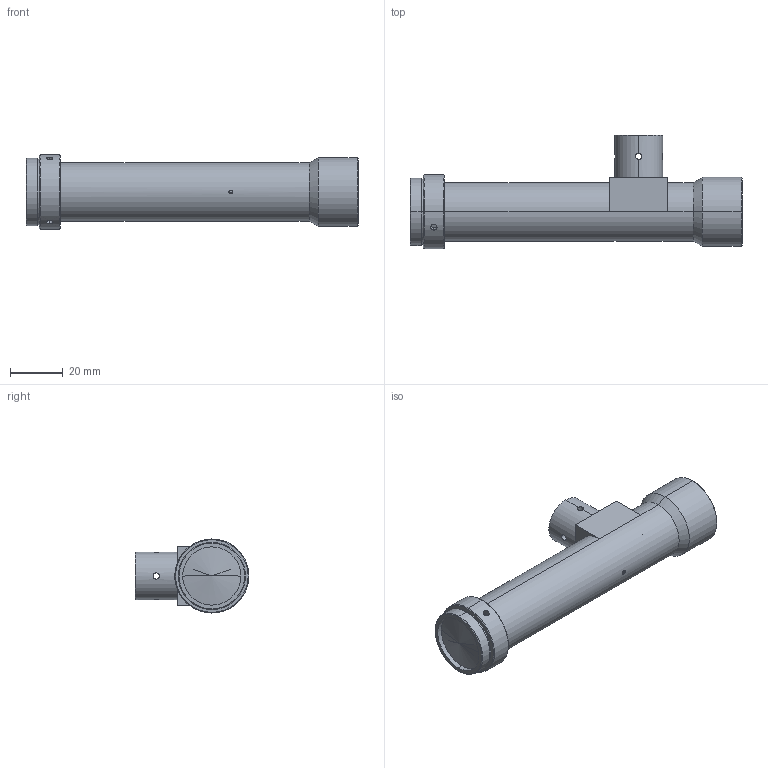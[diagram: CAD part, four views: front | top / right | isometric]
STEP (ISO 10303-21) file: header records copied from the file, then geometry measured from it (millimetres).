
FILE_DESCRIPTION (( 'STEP AP203' ), '1' );
FILE_NAME ('WWH60-65CT.STEP', '2019-12-03T03:56:01', ( 'Windows 蚚誧' ), ( '' ), 'SwSTEP 2.0', 'SolidWorks 2017', '' );
FILE_SCHEMA (( 'CONFIG_CONTROL_DESIGN' ));
Length unit declared in the file: millimetre
Products named in the file (1): WWH60-65CT
Bounding box: 125.35 x 43 x 28 mm (x, y, z)
Volume: 55794.9 mm3; surface area: 13532.6 mm2
Topology: 5 solids, 5 shells, 132 faces, 297 edges, 185 vertices
Faces by surface type: cylinder 64, cone 38, plane 30
Entity records: 4360 total; most frequent: CARTESIAN_POINT 1394, DIRECTION 599, ORIENTED_EDGE 578, EDGE_CURVE 289, AXIS2_PLACEMENT_3D 242, VERTEX_POINT 185, EDGE_LOOP 158, ADVANCED_FACE 132
